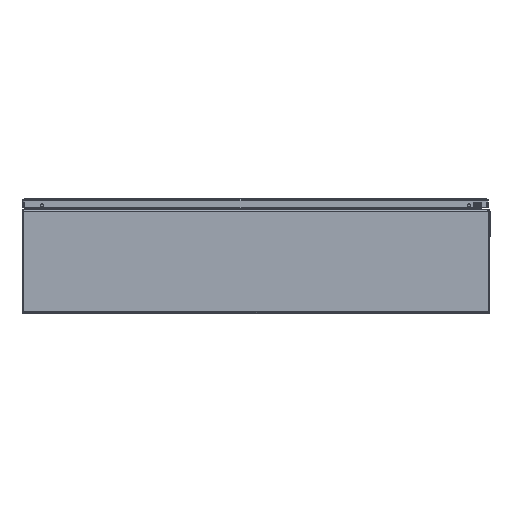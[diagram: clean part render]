
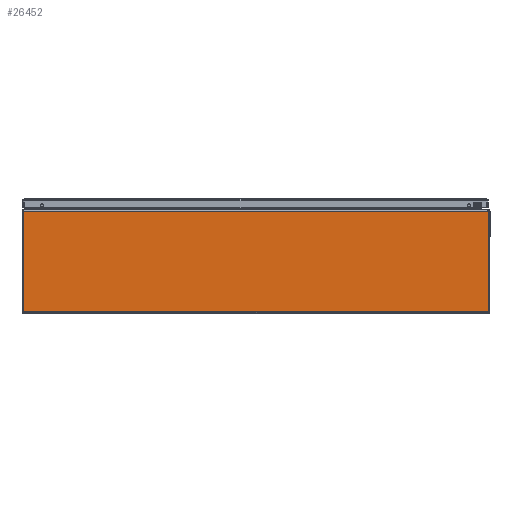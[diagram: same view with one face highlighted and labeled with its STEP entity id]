
A CAD part, front view. The second image highlights one B-rep face of the part: STEP entity #26452.
In plain terms, the highlighted planar face has unit normal (0, -1, 0).
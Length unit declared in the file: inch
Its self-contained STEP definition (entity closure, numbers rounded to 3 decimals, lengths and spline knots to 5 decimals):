
#4614 = AXIS2_PLACEMENT_3D ( 'NONE', #14687, #14682, #14681 ) ;
#14681 = DIRECTION ( 'NONE',  ( 0., 0., -1. ) ) ;
#14682 = DIRECTION ( 'NONE',  ( 0., -1., 0. ) ) ;
#14687 = CARTESIAN_POINT ( 'NONE',  ( -198., -18., 7.838 ) ) ;
#14688 = PLANE ( 'NONE',  #4614 ) ;
#15027 = DIRECTION ( 'NONE',  ( 1., 0., 0. ) ) ;
#15038 = CARTESIAN_POINT ( 'NONE',  ( -198., -18., 0.132 ) ) ;
#15043 = DIRECTION ( 'NONE',  ( 1., 0., 0. ) ) ;
#15052 = CARTESIAN_POINT ( 'NONE',  ( -198., -18., 7.838 ) ) ;
#15262 = DIRECTION ( 'NONE',  ( 0., 0., 1. ) ) ;
#15264 = CARTESIAN_POINT ( 'NONE',  ( 17.92093, -18., 7.838 ) ) ;
#15306 = DIRECTION ( 'NONE',  ( 0., 0., -1. ) ) ;
#15307 = CARTESIAN_POINT ( 'NONE',  ( -17.92093, -18., 7.838 ) ) ;
#26210 = EDGE_CURVE ( 'NONE', #39275, #39274, #43330, .T. ) ;
#26248 = EDGE_CURVE ( 'NONE', #39204, #39274, #43442, .T. ) ;
#26250 = EDGE_CURVE ( 'NONE', #39203, #39275, #43461, .T. ) ;
#26329 = EDGE_CURVE ( 'NONE', #39204, #39203, #43650, .T. ) ;
#26452 = ADVANCED_FACE ( 'NONE', ( #43833 ), #14688, .T. ) ;
#29285 = CARTESIAN_POINT ( 'NONE',  ( -17.92093, -18., 0.132 ) ) ;
#29286 = CARTESIAN_POINT ( 'NONE',  ( -17.92093, -18., 7.838 ) ) ;
#29372 = CARTESIAN_POINT ( 'NONE',  ( 17.92093, -18., 7.838 ) ) ;
#29373 = CARTESIAN_POINT ( 'NONE',  ( 17.92093, -18., 0.132 ) ) ;
#39203 = VERTEX_POINT ( 'NONE', #29285 ) ;
#39204 = VERTEX_POINT ( 'NONE', #29286 ) ;
#39274 = VERTEX_POINT ( 'NONE', #29372 ) ;
#39275 = VERTEX_POINT ( 'NONE', #29373 ) ;
#43330 = LINE ( 'NONE', #15264, #43332 ) ;
#43332 = VECTOR ( 'NONE', #15262, 39.37008 ) ;
#43442 = LINE ( 'NONE', #15052, #43457 ) ;
#43457 = VECTOR ( 'NONE', #15043, 39.37008 ) ;
#43459 = VECTOR ( 'NONE', #15027, 39.37008 ) ;
#43461 = LINE ( 'NONE', #15038, #43459 ) ;
#43650 = LINE ( 'NONE', #15307, #43651 ) ;
#43651 = VECTOR ( 'NONE', #15306, 39.37008 ) ;
#43833 = FACE_OUTER_BOUND ( 'NONE', #44356, .T. ) ;
#44356 = EDGE_LOOP ( 'NONE', ( #49255, #49256, #49258, #49260 ) ) ;
#49255 = ORIENTED_EDGE ( 'NONE', *, *, #26210, .T. ) ;
#49256 = ORIENTED_EDGE ( 'NONE', *, *, #26248, .F. ) ;
#49258 = ORIENTED_EDGE ( 'NONE', *, *, #26329, .T. ) ;
#49260 = ORIENTED_EDGE ( 'NONE', *, *, #26250, .T. ) ;
